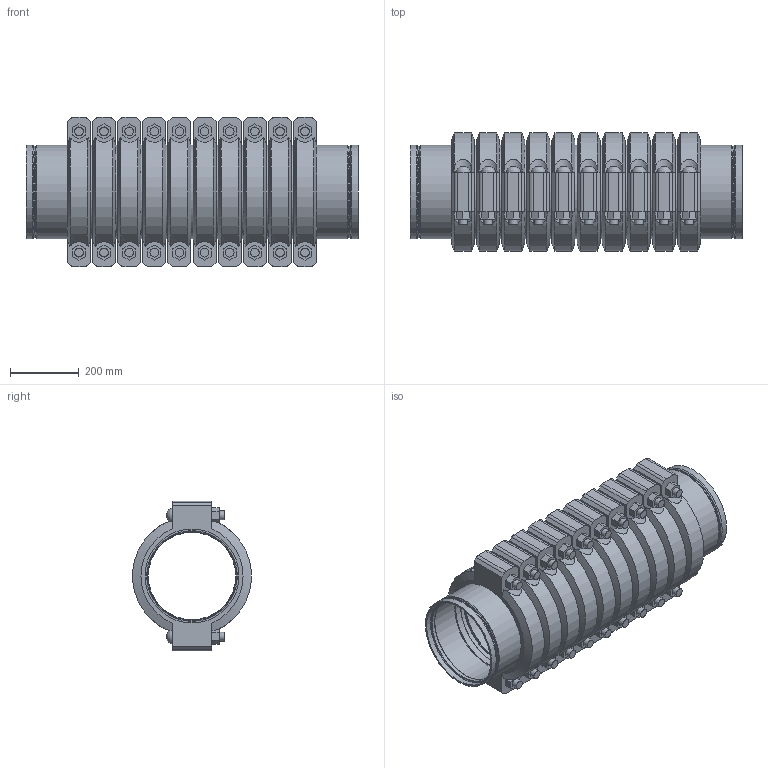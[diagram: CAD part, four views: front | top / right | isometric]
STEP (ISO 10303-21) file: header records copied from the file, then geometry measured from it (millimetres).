
FILE_DESCRIPTION(/* description */ ('VIC STRENGTHIN 100 EXPANSION JOINT 10 COUPLINGS NEUTRAL STYLE E155 (ST1)','CAx-IF Rec.Pracs.---Representation and Presentation of Product Manufacturing Information (PMI)---4.0---2014-10-13'),/* implementation_level */ '2;1');
FILE_NAME(/* name */ 'C:\Users\Vjadhav\AppData\Roaming\Autodesk\ApplicationPlugins\Victaulic.Temp\A165\Victaulic_SS-StrengThin 100_Expansion Joint_Neutral_10 Couplings_Style E155 (ST1)_10 Coup_Neut_10 (250).stp',/* time_stamp */ '2021-07-20T17:40:11+05:00',/* author */ ('kkamble'),/* organization */ ('Victaulic'),/* preprocessor_version */ 'ST-DEVELOPER v17.2',/* originating_system */ 'Autodesk Inventor 2019',/* authorisation */ '');
FILE_SCHEMA (('AP242_MANAGED_MODEL_BASED_3D_ENGINEERING_MIM_LF { 1 0 10303 442 1 1 4 }'));
Length unit declared in the file: inch
Products named in the file (4): E155-10.0; E494G-10.0; Nipple-10.0; 077-10.0
Assembly tree (21 placements, depth 2):
  E155-10.0
    E494G-10.0  x2
    Nipple-10.0  x9
    077-10.0  x10
Bounding box: 965.2 x 344.9 x 435.1 mm (x, y, z)
Volume: 34976678 mm3; surface area: 4605242.6 mm2
Topology: 21 solids, 41 shells, 788 faces, 1950 edges, 1370 vertices
Faces by surface type: plane 428, cylinder 264, cone 44, torus 32, bspline 20
Full cylindrical faces by diameter (mm): 25.4 x40, 27.432 x20, 254.508 x9, 255.626 x2, 258.724 x2, 263.5 x6, 264.16 x10, 265.176 x2, 268.275 x20, 273.05 x53
Entity records: 4153 total; most frequent: CARTESIAN_POINT 856, DIRECTION 707, ORIENTED_EDGE 580, AXIS2_PLACEMENT_3D 306, EDGE_CURVE 290, VERTEX_POINT 209, CIRCLE 175, EDGE_LOOP 135
